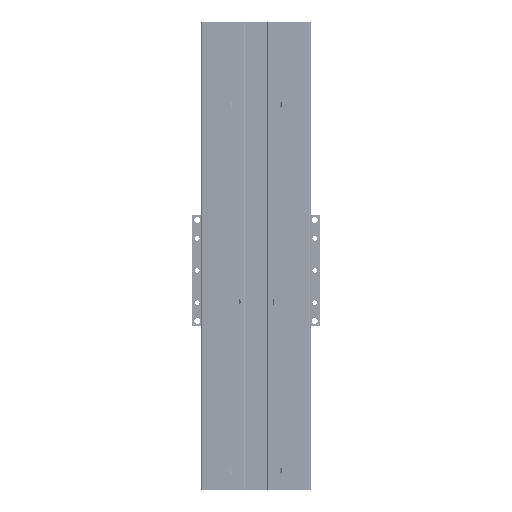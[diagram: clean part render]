
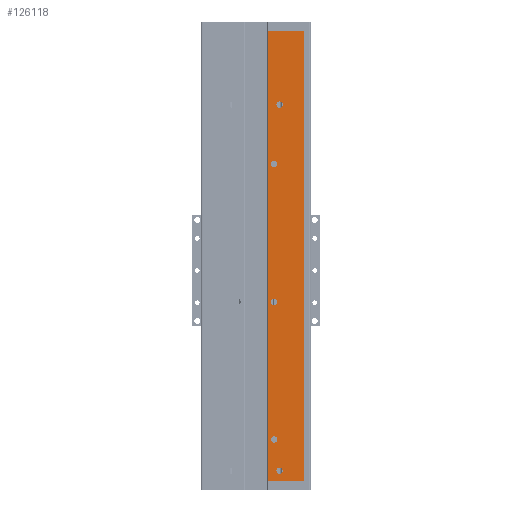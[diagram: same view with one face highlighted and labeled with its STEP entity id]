
A CAD part, front view. The second image highlights one B-rep face of the part: STEP entity #126118.
In plain terms, the highlighted planar face has unit normal (0, -1, 0).
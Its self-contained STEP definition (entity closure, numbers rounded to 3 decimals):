
#34 = ORIENTED_EDGE ( 'NONE', *, *, #56018, .F. ) ;
#975 = DIRECTION ( 'NONE',  ( 0., -1., 0. ) ) ;
#2939 = CARTESIAN_POINT ( 'NONE',  ( 32.31, -28.09, 45. ) ) ;
#4281 = CARTESIAN_POINT ( 'NONE',  ( 38.31, -28.09, 410. ) ) ;
#4439 = VERTEX_POINT ( 'NONE', #105146 ) ;
#6211 = DIRECTION ( 'NONE',  ( 0., -1., 0. ) ) ;
#8765 = CARTESIAN_POINT ( 'NONE',  ( 32.31, -28.09, 45. ) ) ;
#9697 = CIRCLE ( 'NONE', #117310, 3.4 ) ;
#9767 = FACE_BOUND ( 'NONE', #12806, .T. ) ;
#11266 = AXIS2_PLACEMENT_3D ( 'NONE', #13770, #84208, #23877 ) ;
#12806 = EDGE_LOOP ( 'NONE', ( #111812, #28855 ) ) ;
#13017 = DIRECTION ( 'NONE',  ( 0., 0., 1. ) ) ;
#13522 = DIRECTION ( 'NONE',  ( 0., 1., 0. ) ) ;
#13770 = CARTESIAN_POINT ( 'NONE',  ( 38.31, -28.09, 11. ) ) ;
#13959 = LINE ( 'NONE', #44387, #94371 ) ;
#14415 = DIRECTION ( 'NONE',  ( 0., 0., 1. ) ) ;
#18885 = DIRECTION ( 'NONE',  ( 0., 0., 1. ) ) ;
#19964 = AXIS2_PLACEMENT_3D ( 'NONE', #95120, #34753, #105242 ) ;
#20067 = CARTESIAN_POINT ( 'NONE',  ( 38.31, -28.09, 406.6 ) ) ;
#21959 = DIRECTION ( 'NONE',  ( 1., 0., 0. ) ) ;
#22627 = CIRCLE ( 'NONE', #11266, 3.4 ) ;
#22753 = ORIENTED_EDGE ( 'NONE', *, *, #24362, .F. ) ;
#23877 = DIRECTION ( 'NONE',  ( 0., 0., 1. ) ) ;
#24362 = EDGE_CURVE ( 'NONE', #96032, #114493, #9697, .T. ) ;
#25019 = CARTESIAN_POINT ( 'NONE',  ( 32.31, -28.09, 48.5 ) ) ;
#25085 = ORIENTED_EDGE ( 'NONE', *, *, #44604, .T. ) ;
#25659 = VERTEX_POINT ( 'NONE', #45144 ) ;
#26604 = CIRCLE ( 'NONE', #51767, 3.5 ) ;
#26992 = EDGE_CURVE ( 'NONE', #33720, #116143, #34651, .T. ) ;
#28141 = EDGE_LOOP ( 'NONE', ( #22753, #40238 ) ) ;
#28855 = ORIENTED_EDGE ( 'NONE', *, *, #130138, .F. ) ;
#30635 = VERTEX_POINT ( 'NONE', #88957 ) ;
#31403 = EDGE_LOOP ( 'NONE', ( #104645, #34, #112698, #25085 ) ) ;
#33720 = VERTEX_POINT ( 'NONE', #25019 ) ;
#33874 = CIRCLE ( 'NONE', #19964, 3.5 ) ;
#34063 = AXIS2_PLACEMENT_3D ( 'NONE', #2939, #73388, #13017 ) ;
#34651 = CIRCLE ( 'NONE', #111537, 3.5 ) ;
#34678 = VERTEX_POINT ( 'NONE', #88588 ) ;
#34753 = DIRECTION ( 'NONE',  ( 0., 1., 0. ) ) ;
#39064 = EDGE_LOOP ( 'NONE', ( #46738, #80663 ) ) ;
#39321 = DIRECTION ( 'NONE',  ( 0., 0., -1. ) ) ;
#40238 = ORIENTED_EDGE ( 'NONE', *, *, #87134, .F. ) ;
#40785 = DIRECTION ( 'NONE',  ( 0., 0., -1. ) ) ;
#42605 = DIRECTION ( 'NONE',  ( 0., 1., 0. ) ) ;
#42838 = FACE_BOUND ( 'NONE', #85783, .T. ) ;
#43265 = DIRECTION ( 'NONE',  ( 0., 1., 0. ) ) ;
#43623 = LINE ( 'NONE', #61998, #70460 ) ;
#44387 = CARTESIAN_POINT ( 'NONE',  ( 65.31, -28.09, 0. ) ) ;
#44604 = EDGE_CURVE ( 'NONE', #75622, #61636, #87349, .T. ) ;
#45144 = CARTESIAN_POINT ( 'NONE',  ( 38.31, -28.09, 7.6 ) ) ;
#46368 = AXIS2_PLACEMENT_3D ( 'NONE', #4281, #74757, #14415 ) ;
#46457 = DIRECTION ( 'NONE',  ( 0., 1., 0. ) ) ;
#46738 = ORIENTED_EDGE ( 'NONE', *, *, #102977, .T. ) ;
#47284 = CARTESIAN_POINT ( 'NONE',  ( 32.31, -28.09, 41.5 ) ) ;
#50359 = VERTEX_POINT ( 'NONE', #110182 ) ;
#51767 = AXIS2_PLACEMENT_3D ( 'NONE', #103665, #43265, #113735 ) ;
#53701 = CARTESIAN_POINT ( 'NONE',  ( 25.31, -28.09, 0. ) ) ;
#54522 = DIRECTION ( 'NONE',  ( 1., 0., 0. ) ) ;
#55535 = CARTESIAN_POINT ( 'NONE',  ( 65.31, -28.09, 0. ) ) ;
#55572 = VERTEX_POINT ( 'NONE', #91007 ) ;
#56018 = EDGE_CURVE ( 'NONE', #55572, #120064, #59258, .T. ) ;
#58140 = AXIS2_PLACEMENT_3D ( 'NONE', #106842, #46457, #116925 ) ;
#58950 = EDGE_CURVE ( 'NONE', #4439, #34678, #81917, .T. ) ;
#59258 = LINE ( 'NONE', #118597, #95614 ) ;
#61039 = EDGE_CURVE ( 'NONE', #30635, #112718, #26604, .T. ) ;
#61295 = CARTESIAN_POINT ( 'NONE',  ( 38.31, -28.09, 11. ) ) ;
#61636 = VERTEX_POINT ( 'NONE', #53701 ) ;
#61998 = CARTESIAN_POINT ( 'NONE',  ( 65.31, -28.09, 490. ) ) ;
#62887 = EDGE_LOOP ( 'NONE', ( #129050, #122729 ) ) ;
#66493 = CARTESIAN_POINT ( 'NONE',  ( 38.31, -28.09, 410. ) ) ;
#70460 = VECTOR ( 'NONE', #21959, 1000. ) ;
#71202 = AXIS2_PLACEMENT_3D ( 'NONE', #61295, #975, #71466 ) ;
#71466 = DIRECTION ( 'NONE',  ( 0., 0., 1. ) ) ;
#73388 = DIRECTION ( 'NONE',  ( 0., 1., 0. ) ) ;
#73900 = CARTESIAN_POINT ( 'NONE',  ( 65.31, -28.09, 490. ) ) ;
#74361 = CIRCLE ( 'NONE', #46368, 3.4 ) ;
#74757 = DIRECTION ( 'NONE',  ( 0., -1., 0. ) ) ;
#75622 = VERTEX_POINT ( 'NONE', #123082 ) ;
#76632 = DIRECTION ( 'NONE',  ( 0., 0., 1. ) ) ;
#79209 = DIRECTION ( 'NONE',  ( 0., 1., 0. ) ) ;
#80663 = ORIENTED_EDGE ( 'NONE', *, *, #58950, .T. ) ;
#81917 = CIRCLE ( 'NONE', #111603, 3.5 ) ;
#83166 = ORIENTED_EDGE ( 'NONE', *, *, #93362, .T. ) ;
#83969 = DIRECTION ( 'NONE',  ( 0., 0., 1. ) ) ;
#84178 = VECTOR ( 'NONE', #40785, 1000. ) ;
#84208 = DIRECTION ( 'NONE',  ( 0., -1., 0. ) ) ;
#85783 = EDGE_LOOP ( 'NONE', ( #96896, #83166 ) ) ;
#86991 = FACE_OUTER_BOUND ( 'NONE', #31403, .T. ) ;
#87134 = EDGE_CURVE ( 'NONE', #114493, #96032, #74361, .T. ) ;
#87349 = LINE ( 'NONE', #110811, #84178 ) ;
#87353 = CARTESIAN_POINT ( 'NONE',  ( 38.31, -28.09, 413.4 ) ) ;
#88588 = CARTESIAN_POINT ( 'NONE',  ( 32.31, -28.09, 348.5 ) ) ;
#88957 = CARTESIAN_POINT ( 'NONE',  ( 32.31, -28.09, 198.5 ) ) ;
#90086 = CARTESIAN_POINT ( 'NONE',  ( 32.31, -28.09, 191.5 ) ) ;
#90146 = FACE_BOUND ( 'NONE', #62887, .T. ) ;
#91007 = CARTESIAN_POINT ( 'NONE',  ( 65.31, -28.09, 490. ) ) ;
#93362 = EDGE_CURVE ( 'NONE', #116143, #33720, #97747, .T. ) ;
#94371 = VECTOR ( 'NONE', #54522, 1000. ) ;
#95120 = CARTESIAN_POINT ( 'NONE',  ( 32.31, -28.09, 195. ) ) ;
#95614 = VECTOR ( 'NONE', #39321, 1000. ) ;
#96032 = VERTEX_POINT ( 'NONE', #20067 ) ;
#96896 = ORIENTED_EDGE ( 'NONE', *, *, #26992, .T. ) ;
#97127 = EDGE_CURVE ( 'NONE', #75622, #55572, #43623, .T. ) ;
#97747 = CIRCLE ( 'NONE', #34063, 3.5 ) ;
#98865 = EDGE_CURVE ( 'NONE', #112718, #30635, #33874, .T. ) ;
#102976 = CARTESIAN_POINT ( 'NONE',  ( 32.31, -28.09, 345. ) ) ;
#102977 = EDGE_CURVE ( 'NONE', #34678, #4439, #116640, .T. ) ;
#103665 = CARTESIAN_POINT ( 'NONE',  ( 32.31, -28.09, 195. ) ) ;
#103999 = CIRCLE ( 'NONE', #71202, 3.4 ) ;
#104645 = ORIENTED_EDGE ( 'NONE', *, *, #120593, .T. ) ;
#105146 = CARTESIAN_POINT ( 'NONE',  ( 32.31, -28.09, 341.5 ) ) ;
#105242 = DIRECTION ( 'NONE',  ( 0., 0., 1. ) ) ;
#106842 = CARTESIAN_POINT ( 'NONE',  ( 32.31, -28.09, 345. ) ) ;
#110182 = CARTESIAN_POINT ( 'NONE',  ( 38.31, -28.09, 14.4 ) ) ;
#110811 = CARTESIAN_POINT ( 'NONE',  ( 25.31, -28.09, 490. ) ) ;
#111537 = AXIS2_PLACEMENT_3D ( 'NONE', #8765, #79209, #18885 ) ;
#111603 = AXIS2_PLACEMENT_3D ( 'NONE', #102976, #42605, #113103 ) ;
#111812 = ORIENTED_EDGE ( 'NONE', *, *, #124700, .F. ) ;
#112698 = ORIENTED_EDGE ( 'NONE', *, *, #97127, .F. ) ;
#112718 = VERTEX_POINT ( 'NONE', #90086 ) ;
#113103 = DIRECTION ( 'NONE',  ( 0., 0., 1. ) ) ;
#113735 = DIRECTION ( 'NONE',  ( 0., 0., 1. ) ) ;
#113745 = FACE_BOUND ( 'NONE', #28141, .T. ) ;
#114493 = VERTEX_POINT ( 'NONE', #87353 ) ;
#116143 = VERTEX_POINT ( 'NONE', #47284 ) ;
#116640 = CIRCLE ( 'NONE', #58140, 3.5 ) ;
#116922 = FACE_BOUND ( 'NONE', #39064, .T. ) ;
#116925 = DIRECTION ( 'NONE',  ( 0., 0., 1. ) ) ;
#117310 = AXIS2_PLACEMENT_3D ( 'NONE', #66493, #6211, #76632 ) ;
#118241 = AXIS2_PLACEMENT_3D ( 'NONE', #73900, #13522, #83969 ) ;
#118597 = CARTESIAN_POINT ( 'NONE',  ( 65.31, -28.09, 490. ) ) ;
#120064 = VERTEX_POINT ( 'NONE', #55535 ) ;
#120593 = EDGE_CURVE ( 'NONE', #61636, #120064, #13959, .T. ) ;
#122729 = ORIENTED_EDGE ( 'NONE', *, *, #98865, .T. ) ;
#123082 = CARTESIAN_POINT ( 'NONE',  ( 25.31, -28.09, 490. ) ) ;
#124008 = PLANE ( 'NONE',  #118241 ) ;
#124700 = EDGE_CURVE ( 'NONE', #25659, #50359, #22627, .T. ) ;
#126118 = ADVANCED_FACE ( 'NONE', ( #116922, #90146, #42838, #9767, #113745, #86991 ), #124008, .F. ) ;
#129050 = ORIENTED_EDGE ( 'NONE', *, *, #61039, .T. ) ;
#130138 = EDGE_CURVE ( 'NONE', #50359, #25659, #103999, .T. ) ;
